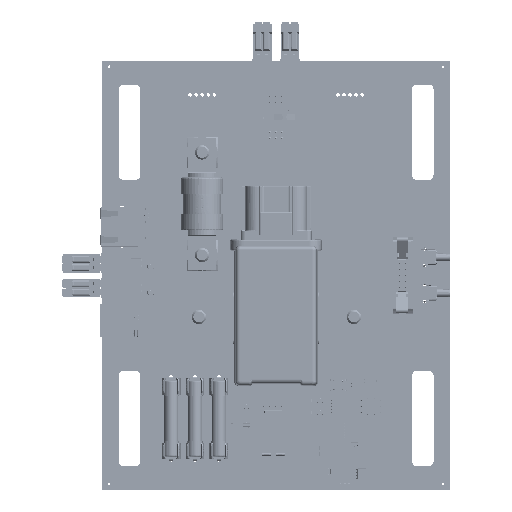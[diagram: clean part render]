
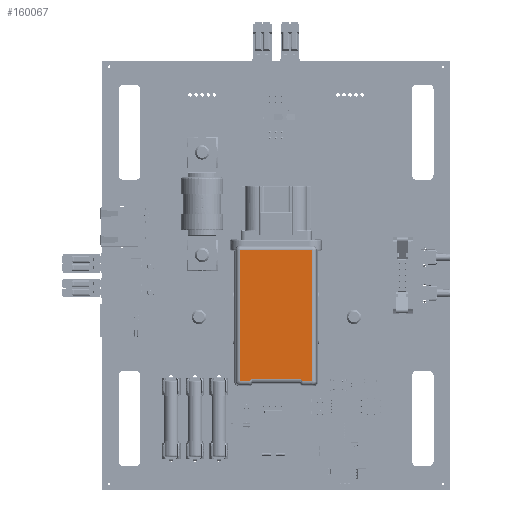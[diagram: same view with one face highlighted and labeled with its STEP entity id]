
A CAD part, top view. The second image highlights one B-rep face of the part: STEP entity #160067.
In plain terms, the highlighted planar face has unit normal (0, 0, 1) as drawn and (0, 1, 0) by its records, which use the part's own axes.
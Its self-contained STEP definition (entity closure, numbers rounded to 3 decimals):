
#159497 = VERTEX_POINT('',#159498);
#159498 = CARTESIAN_POINT('',(-15.186,23.,-26.964));
#159520 = EDGE_CURVE('',#159521,#159497,#159523,.T.);
#159521 = VERTEX_POINT('',#159522);
#159522 = CARTESIAN_POINT('',(-15.186,23.,-82.036));
#159523 = LINE('',#159524,#159525);
#159524 = CARTESIAN_POINT('',(-15.186,23.,-82.036));
#159525 = VECTOR('',#159526,1.);
#159526 = DIRECTION('',(0.,0.,1.));
#159580 = EDGE_CURVE('',#159581,#159521,#159583,.T.);
#159581 = VERTEX_POINT('',#159582);
#159582 = CARTESIAN_POINT('',(-11.279,23.,-82.036));
#159583 = LINE('',#159584,#159585);
#159584 = CARTESIAN_POINT('',(-11.279,23.,-82.036));
#159585 = VECTOR('',#159586,1.);
#159586 = DIRECTION('',(-1.,0.,0.));
#159815 = VERTEX_POINT('',#159816);
#159816 = CARTESIAN_POINT('',(11.279,23.,-82.036));
#159893 = EDGE_CURVE('',#159894,#159815,#159896,.T.);
#159894 = VERTEX_POINT('',#159895);
#159895 = CARTESIAN_POINT('',(15.186,23.,-82.036));
#159896 = LINE('',#159897,#159898);
#159897 = CARTESIAN_POINT('',(15.186,23.,-82.036));
#159898 = VECTOR('',#159899,1.);
#159899 = DIRECTION('',(-1.,0.,0.));
#159944 = EDGE_CURVE('',#159945,#159894,#159947,.T.);
#159945 = VERTEX_POINT('',#159946);
#159946 = CARTESIAN_POINT('',(15.186,23.,-26.964));
#159947 = LINE('',#159948,#159949);
#159948 = CARTESIAN_POINT('',(15.186,23.,-26.964));
#159949 = VECTOR('',#159950,1.);
#159950 = DIRECTION('',(0.,0.,-1.));
#160057 = EDGE_CURVE('',#159945,#159497,#160058,.T.);
#160058 = LINE('',#160059,#160060);
#160059 = CARTESIAN_POINT('',(15.186,23.,-26.964));
#160060 = VECTOR('',#160061,1.);
#160061 = DIRECTION('',(-1.,0.,0.));
#160067 = ADVANCED_FACE('',(#160068),#160107,.T.);
#160068 = FACE_BOUND('',#160069,.F.);
#160069 = EDGE_LOOP('',(#160070,#160083,#160084,#160085,#160086,#160087,
    #160088,#160101));
#160070 = ORIENTED_EDGE('',*,*,#160071,.F.);
#160071 = EDGE_CURVE('',#159815,#160072,#160074,.T.);
#160072 = VERTEX_POINT('',#160073);
#160073 = CARTESIAN_POINT('',(10.107,23.,-81.136));
#160074 = B_SPLINE_CURVE_WITH_KNOTS('',3,(#160075,#160076,#160077,
    #160078,#160079,#160080,#160081,#160082),.UNSPECIFIED.,.F.,.F.,(4,1,
    1,1,1,4),(0.,0.2,0.4,0.6,0.8,1.),.QUASI_UNIFORM_KNOTS.);
#160075 = CARTESIAN_POINT('',(11.279,23.,-82.036));
#160076 = CARTESIAN_POINT('',(11.225,23.,
    -81.947));
#160077 = CARTESIAN_POINT('',(11.104,23.,
    -81.782));
#160078 = CARTESIAN_POINT('',(10.875,23.,
    -81.567));
#160079 = CARTESIAN_POINT('',(10.628,23.,
    -81.397));
#160080 = CARTESIAN_POINT('',(10.376,23.,
    -81.261));
#160081 = CARTESIAN_POINT('',(10.197,22.999,
    -81.177));
#160082 = CARTESIAN_POINT('',(10.107,23.,-81.136));
#160083 = ORIENTED_EDGE('',*,*,#159893,.F.);
#160084 = ORIENTED_EDGE('',*,*,#159944,.F.);
#160085 = ORIENTED_EDGE('',*,*,#160057,.T.);
#160086 = ORIENTED_EDGE('',*,*,#159520,.F.);
#160087 = ORIENTED_EDGE('',*,*,#159580,.F.);
#160088 = ORIENTED_EDGE('',*,*,#160089,.F.);
#160089 = EDGE_CURVE('',#160090,#159581,#160092,.T.);
#160090 = VERTEX_POINT('',#160091);
#160091 = CARTESIAN_POINT('',(-10.107,23.,-81.136));
#160092 = B_SPLINE_CURVE_WITH_KNOTS('',3,(#160093,#160094,#160095,
    #160096,#160097,#160098,#160099,#160100),.UNSPECIFIED.,.F.,.F.,(4,1,
    1,1,1,4),(0.,0.2,0.4,0.6,0.8,1.),.QUASI_UNIFORM_KNOTS.);
#160093 = CARTESIAN_POINT('',(-10.107,23.,-81.136));
#160094 = CARTESIAN_POINT('',(-10.197,22.999,
    -81.177));
#160095 = CARTESIAN_POINT('',(-10.375,23.,
    -81.26));
#160096 = CARTESIAN_POINT('',(-10.627,23.,
    -81.397));
#160097 = CARTESIAN_POINT('',(-10.876,23.,
    -81.567));
#160098 = CARTESIAN_POINT('',(-11.104,23.,
    -81.782));
#160099 = CARTESIAN_POINT('',(-11.225,23.,
    -81.947));
#160100 = CARTESIAN_POINT('',(-11.279,23.,-82.036));
#160101 = ORIENTED_EDGE('',*,*,#160102,.F.);
#160102 = EDGE_CURVE('',#160072,#160090,#160103,.T.);
#160103 = LINE('',#160104,#160105);
#160104 = CARTESIAN_POINT('',(10.107,23.,-81.136));
#160105 = VECTOR('',#160106,1.);
#160106 = DIRECTION('',(-1.,0.,0.));
#160107 = PLANE('',#160108);
#160108 = AXIS2_PLACEMENT_3D('',#160109,#160110,#160111);
#160109 = CARTESIAN_POINT('',(-17.15,23.,-83.721));
#160110 = DIRECTION('',(0.,1.,0.));
#160111 = DIRECTION('',(0.,-0.,1.));
